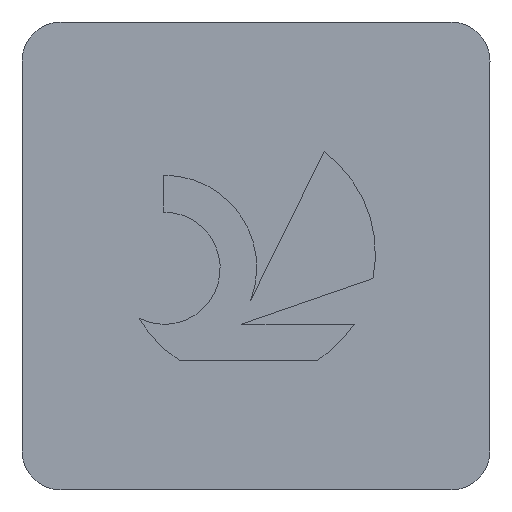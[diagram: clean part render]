
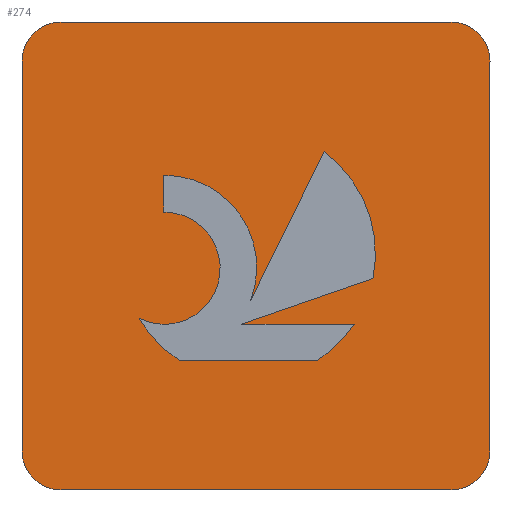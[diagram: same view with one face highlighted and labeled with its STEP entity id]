
A CAD part, top view. The second image highlights one B-rep face of the part: STEP entity #274.
In plain terms, the highlighted planar face has unit normal (0, 0, 1).
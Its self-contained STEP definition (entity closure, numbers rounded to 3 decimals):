
#142=VERTEX_POINT('',#394);
#148=EDGE_CURVE('',#328,#240,#400,.T.);
#168=EDGE_CURVE('',#296,#170,#422,.T.);
#170=VERTEX_POINT('',#424);
#176=EDGE_CURVE('',#202,#328,#431,.T.);
#180=EDGE_CURVE('',#312,#368,#436,.T.);
#202=VERTEX_POINT('',#460);
#220=EDGE_CURVE('',#332,#268,#480,.T.);
#224=VERTEX_POINT('',#484);
#226=EDGE_CURVE('',#262,#296,#486,.T.);
#232=EDGE_CURVE('',#364,#224,#492,.T.);
#234=EDGE_CURVE('',#314,#280,#494,.T.);
#240=VERTEX_POINT('',#500);
#248=EDGE_CURVE('',#170,#142,#508,.T.);
#262=VERTEX_POINT('',#526);
#264=EDGE_CURVE('',#280,#342,#528,.T.);
#268=VERTEX_POINT('',#532);
#272=VERTEX_POINT('',#537);
#274=ADVANCED_FACE('',(#539,#540),#541,.T.);
#276=EDGE_CURVE('',#240,#314,#543,.T.);
#280=VERTEX_POINT('',#547);
#282=EDGE_CURVE('',#272,#334,#549,.T.);
#296=VERTEX_POINT('',#565);
#300=EDGE_CURVE('',#224,#202,#570,.T.);
#312=VERTEX_POINT('',#583);
#314=VERTEX_POINT('',#585);
#328=VERTEX_POINT('',#600);
#332=VERTEX_POINT('',#605);
#334=VERTEX_POINT('',#607);
#342=VERTEX_POINT('',#615);
#344=EDGE_CURVE('',#346,#312,#617,.T.);
#346=VERTEX_POINT('',#619);
#350=EDGE_CURVE('',#368,#272,#623,.T.);
#360=EDGE_CURVE('',#268,#262,#635,.T.);
#364=VERTEX_POINT('',#639);
#366=EDGE_CURVE('',#342,#364,#641,.T.);
#368=VERTEX_POINT('',#643);
#370=EDGE_CURVE('',#334,#332,#645,.T.);
#372=EDGE_CURVE('',#142,#346,#647,.T.);
#394=CARTESIAN_POINT('',(6.761,3.376,0.0));
#400=LINE('',#667,#668);
#422=LINE('',#699,#700);
#424=CARTESIAN_POINT('',(4.477,3.376,0.0));
#431=CIRCLE('',#710,0.794);
#436=CIRCLE('',#716,2.586);
#460=CARTESIAN_POINT('',(8.731,0.0,0.0));
#480=CIRCLE('',#781,1.878);
#484=CARTESIAN_POINT('',(0.794,0.0,0.0));
#486=CIRCLE('',#790,2.586);
#492=CIRCLE('',#799,0.794);
#494=LINE('',#802,#803);
#500=CARTESIAN_POINT('',(9.525,8.731,0.0));
#508=LINE('',#821,#822);
#526=CARTESIAN_POINT('',(6.147,6.885,0.0));
#528=CIRCLE('',#845,0.794);
#532=CARTESIAN_POINT('',(4.652,3.853,0.0));
#537=CARTESIAN_POINT('',(3.402,5.535,0.0));
#539=FACE_BOUND('',#858,.T.);
#540=FACE_OUTER_BOUND('',#859,.T.);
#541=PLANE('',#860);
#543=CIRCLE('',#863,0.794);
#547=CARTESIAN_POINT('',(0.794,9.525,0.0));
#549=CIRCLE('',#870,1.141);
#565=CARTESIAN_POINT('',(7.143,4.302,0.0));
#570=LINE('',#896,#897);
#583=CARTESIAN_POINT('',(3.199,2.64,0.0));
#585=CARTESIAN_POINT('',(8.731,9.525,0.0));
#600=CARTESIAN_POINT('',(9.525,0.794,0.0));
#605=CARTESIAN_POINT('',(2.885,6.406,0.0));
#607=CARTESIAN_POINT('',(2.885,5.655,0.0));
#615=CARTESIAN_POINT('',(0.,8.731,0.0));
#617=LINE('',#962,#963);
#619=CARTESIAN_POINT('',(6.017,2.64,0.0));
#623=CIRCLE('',#970,1.141);
#635=LINE('',#984,#985);
#639=CARTESIAN_POINT('',(0.0,0.794,0.0));
#641=LINE('',#994,#995);
#643=CARTESIAN_POINT('',(2.381,3.493,0.0));
#645=LINE('',#1000,#1001);
#647=CIRCLE('',#1004,2.586);
#667=CARTESIAN_POINT('',(9.525,0.794,0.0));
#668=VECTOR('',#1013,1.0);
#699=CARTESIAN_POINT('',(4.819,3.495,0.0));
#700=VECTOR('',#1034,1.0);
#710=AXIS2_PLACEMENT_3D('',#1043,#1044,#1045);
#716=AXIS2_PLACEMENT_3D('',#1061,#1062,#1063);
#781=AXIS2_PLACEMENT_3D('',#1111,#1112,#1113);
#790=AXIS2_PLACEMENT_3D('',#1115,#1116,#1117);
#799=AXIS2_PLACEMENT_3D('',#1119,#1120,#1121);
#802=CARTESIAN_POINT('',(8.731,9.525,0.0));
#803=VECTOR('',#1122,1.0);
#821=CARTESIAN_POINT('',(5.762,3.376,0.0));
#822=VECTOR('',#1127,1.0);
#845=AXIS2_PLACEMENT_3D('',#1165,#1166,#1167);
#858=EDGE_LOOP('',(#1178,#1179,#1180,#1181,#1182,#1183,#1184,#1185,#1186,#1187,#1188));
#859=EDGE_LOOP('',(#1189,#1190,#1191,#1192,#1193,#1194,#1195,#1196));
#860=AXIS2_PLACEMENT_3D('',#1197,#1198,#1199);
#863=AXIS2_PLACEMENT_3D('',#1200,#1201,#1202);
#870=AXIS2_PLACEMENT_3D('',#1203,#1204,#1205);
#896=CARTESIAN_POINT('',(0.794,0.0,0.0));
#897=VECTOR('',#1237,1.0);
#962=CARTESIAN_POINT('',(3.981,2.64,0.0));
#963=VECTOR('',#1278,1.0);
#970=AXIS2_PLACEMENT_3D('',#1279,#1280,#1281);
#984=CARTESIAN_POINT('',(5.591,5.757,0.0));
#985=VECTOR('',#1301,1.0);
#994=CARTESIAN_POINT('',(0.0,8.731,0.0));
#995=VECTOR('',#1303,1.0);
#1000=CARTESIAN_POINT('',(2.885,5.584,0.0));
#1001=VECTOR('',#1304,1.0);
#1004=AXIS2_PLACEMENT_3D('',#1305,#1306,#1307);
#1013=DIRECTION('',(0.0,1.0,0.0));
#1034=DIRECTION('',(-0.945,-0.328,0.0));
#1043=CARTESIAN_POINT('',(8.731,0.794,0.0));
#1044=DIRECTION('',(0.0,0.0,1.0));
#1045=DIRECTION('',(0.,-1.0,0.0));
#1061=CARTESIAN_POINT('',(4.608,4.808,0.0));
#1062=DIRECTION('',(-0.0,0.0,-1.0));
#1063=DIRECTION('',(-0.861,-0.508,0.0));
#1111=CARTESIAN_POINT('',(2.899,4.528,0.0));
#1112=DIRECTION('',(0.0,-0.0,-1.0));
#1113=DIRECTION('',(0.933,-0.359,0.0));
#1115=CARTESIAN_POINT('',(4.608,4.808,0.0));
#1116=DIRECTION('',(0.0,-0.0,-1.0));
#1117=DIRECTION('',(0.981,-0.196,0.0));
#1119=CARTESIAN_POINT('',(0.794,0.794,0.0));
#1120=DIRECTION('',(0.0,0.0,1.0));
#1121=DIRECTION('',(-1.0,0.,0.0));
#1122=DIRECTION('',(-1.0,0.0,0.0));
#1127=DIRECTION('',(1.0,0.0,0.0));
#1165=CARTESIAN_POINT('',(0.794,8.731,0.0));
#1166=DIRECTION('',(0.0,0.0,1.0));
#1167=DIRECTION('',(0.,1.0,0.0));
#1178=ORIENTED_EDGE('',*,*,#370,.T.);
#1179=ORIENTED_EDGE('',*,*,#220,.T.);
#1180=ORIENTED_EDGE('',*,*,#360,.T.);
#1181=ORIENTED_EDGE('',*,*,#226,.T.);
#1182=ORIENTED_EDGE('',*,*,#168,.T.);
#1183=ORIENTED_EDGE('',*,*,#248,.T.);
#1184=ORIENTED_EDGE('',*,*,#372,.T.);
#1185=ORIENTED_EDGE('',*,*,#344,.T.);
#1186=ORIENTED_EDGE('',*,*,#180,.T.);
#1187=ORIENTED_EDGE('',*,*,#350,.T.);
#1188=ORIENTED_EDGE('',*,*,#282,.T.);
#1189=ORIENTED_EDGE('',*,*,#300,.T.);
#1190=ORIENTED_EDGE('',*,*,#176,.T.);
#1191=ORIENTED_EDGE('',*,*,#148,.T.);
#1192=ORIENTED_EDGE('',*,*,#276,.T.);
#1193=ORIENTED_EDGE('',*,*,#234,.T.);
#1194=ORIENTED_EDGE('',*,*,#264,.T.);
#1195=ORIENTED_EDGE('',*,*,#366,.T.);
#1196=ORIENTED_EDGE('',*,*,#232,.T.);
#1197=CARTESIAN_POINT('',(4.763,4.763,0.0));
#1198=DIRECTION('',(0.0,0.0,1.0));
#1199=DIRECTION('',(1.0,0.0,0.0));
#1200=CARTESIAN_POINT('',(8.731,8.731,0.0));
#1201=DIRECTION('',(0.0,-0.0,1.0));
#1202=DIRECTION('',(1.0,0.,0.0));
#1203=CARTESIAN_POINT('',(2.892,4.514,0.0));
#1204=DIRECTION('',(0.0,0.0,1.0));
#1205=DIRECTION('',(-0.447,-0.894,0.0));
#1237=DIRECTION('',(1.0,0.0,0.0));
#1278=DIRECTION('',(-1.0,0.0,0.0));
#1279=CARTESIAN_POINT('',(2.892,4.514,0.0));
#1280=DIRECTION('',(0.0,0.0,1.0));
#1281=DIRECTION('',(-0.447,-0.894,0.0));
#1301=DIRECTION('',(0.442,0.897,-0.0));
#1303=DIRECTION('',(0.0,-1.0,0.0));
#1304=DIRECTION('',(0.0,1.0,0.0));
#1305=CARTESIAN_POINT('',(4.608,4.808,0.0));
#1306=DIRECTION('',(0.0,-0.0,-1.0));
#1307=DIRECTION('',(0.545,-0.838,0.0));
